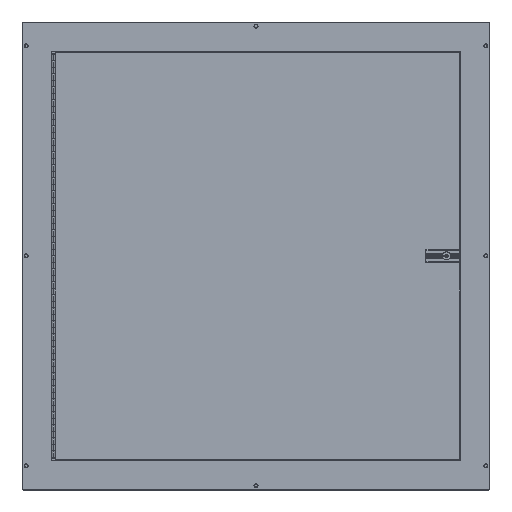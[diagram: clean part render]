
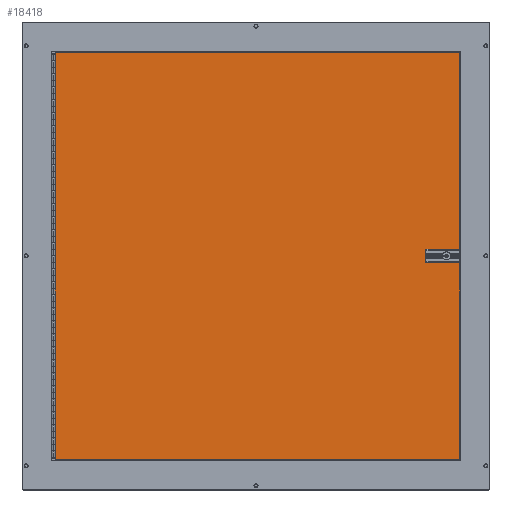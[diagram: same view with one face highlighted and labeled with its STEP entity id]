
A CAD part, top view. The second image highlights one B-rep face of the part: STEP entity #18418.
In plain terms, the highlighted planar face has unit normal (0, 0, 1).
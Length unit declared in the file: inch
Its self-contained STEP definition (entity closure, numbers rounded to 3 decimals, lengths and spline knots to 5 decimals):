
#10957 = CARTESIAN_POINT ( 'NONE',  ( 13.43, 0.51, 0.097 ) ) ;
#11002 = CARTESIAN_POINT ( 'NONE',  ( -15.565, -15.65, 0.097 ) ) ;
#11003 = CARTESIAN_POINT ( 'NONE',  ( -15.565, 15.65, 0.097 ) ) ;
#11004 = DIRECTION ( 'NONE',  ( 0., -1., 0. ) ) ;
#11005 = VECTOR ( 'NONE', #11004, 39.37008 ) ;
#11006 = CARTESIAN_POINT ( 'NONE',  ( -15.565, -15.65, 0.097 ) ) ;
#11007 = LINE ( 'NONE', #11006, #11005 ) ;
#11008 = DIRECTION ( 'NONE',  ( -1., 0., 0. ) ) ;
#11010 = DIRECTION ( 'NONE',  ( 0., 0., -1. ) ) ;
#11011 = CARTESIAN_POINT ( 'NONE',  ( -15.565, 15.65, 0.097 ) ) ;
#11012 = AXIS2_PLACEMENT_3D ( 'NONE', #11011, #11010, #11008 ) ;
#11013 = PLANE ( 'NONE',  #11012 ) ;
#11018 = FACE_BOUND ( 'NONE', #18483, .T. ) ;
#11019 = FACE_OUTER_BOUND ( 'NONE', #18419, .T. ) ;
#11022 = CARTESIAN_POINT ( 'NONE',  ( 13.43, -0.51, 0.097 ) ) ;
#11063 = DIRECTION ( 'NONE',  ( 1., 0., 0. ) ) ;
#11064 = VECTOR ( 'NONE', #11063, 39.37008 ) ;
#11065 = CARTESIAN_POINT ( 'NONE',  ( 13.43, -0.51, 0.097 ) ) ;
#11066 = LINE ( 'NONE', #11065, #11064 ) ;
#11067 = CARTESIAN_POINT ( 'NONE',  ( 15.15, -0.51, 0.097 ) ) ;
#11068 = DIRECTION ( 'NONE',  ( 0., 1., 0. ) ) ;
#11069 = VECTOR ( 'NONE', #11068, 39.37008 ) ;
#11070 = CARTESIAN_POINT ( 'NONE',  ( 15.15, -0.51, 0.097 ) ) ;
#11071 = LINE ( 'NONE', #11070, #11069 ) ;
#11072 = CARTESIAN_POINT ( 'NONE',  ( 15.15, 0.51, 0.097 ) ) ;
#11073 = DIRECTION ( 'NONE',  ( -1., 0., 0. ) ) ;
#11074 = VECTOR ( 'NONE', #11073, 39.37008 ) ;
#11075 = CARTESIAN_POINT ( 'NONE',  ( 13.43, 0.51, 0.097 ) ) ;
#11076 = LINE ( 'NONE', #11075, #11074 ) ;
#11088 = DIRECTION ( 'NONE',  ( 0., -1., 0. ) ) ;
#11089 = VECTOR ( 'NONE', #11088, 39.37008 ) ;
#11090 = CARTESIAN_POINT ( 'NONE',  ( 13.43, -0.51, 0.097 ) ) ;
#11091 = LINE ( 'NONE', #11090, #11089 ) ;
#11092 = DIRECTION ( 'NONE',  ( -1., 0., 0. ) ) ;
#11093 = VECTOR ( 'NONE', #11092, 39.37008 ) ;
#11094 = CARTESIAN_POINT ( 'NONE',  ( -15.565, 15.65, 0.097 ) ) ;
#11095 = LINE ( 'NONE', #11094, #11093 ) ;
#11096 = CARTESIAN_POINT ( 'NONE',  ( 15.565, 15.65, 0.097 ) ) ;
#11097 = DIRECTION ( 'NONE',  ( 0., 1., 0. ) ) ;
#11098 = VECTOR ( 'NONE', #11097, 39.37008 ) ;
#11099 = CARTESIAN_POINT ( 'NONE',  ( 15.565, -15.65, 0.097 ) ) ;
#11100 = LINE ( 'NONE', #11099, #11098 ) ;
#11101 = CARTESIAN_POINT ( 'NONE',  ( 15.565, -15.65, 0.097 ) ) ;
#11102 = DIRECTION ( 'NONE',  ( 1., 0., 0. ) ) ;
#11103 = VECTOR ( 'NONE', #11102, 39.37008 ) ;
#11104 = CARTESIAN_POINT ( 'NONE',  ( -15.565, -15.65, 0.097 ) ) ;
#11105 = LINE ( 'NONE', #11104, #11103 ) ;
#18406 = VERTEX_POINT ( 'NONE', #10957 ) ;
#18407 = VERTEX_POINT ( 'NONE', #11022 ) ;
#18408 = ORIENTED_EDGE ( 'NONE', *, *, #18459, .F. ) ;
#18418 = ADVANCED_FACE ( 'NONE', ( #11019, #11018 ), #11013, .F. ) ;
#18419 = EDGE_LOOP ( 'NONE', ( #18420, #18475, #18478, #18481 ) ) ;
#18420 = ORIENTED_EDGE ( 'NONE', *, *, #18421, .T. ) ;
#18421 = EDGE_CURVE ( 'NONE', #18422, #18423, #11007, .T. ) ;
#18422 = VERTEX_POINT ( 'NONE', #11003 ) ;
#18423 = VERTEX_POINT ( 'NONE', #11002 ) ;
#18459 = EDGE_CURVE ( 'NONE', #18460, #18406, #11076, .T. ) ;
#18460 = VERTEX_POINT ( 'NONE', #11072 ) ;
#18462 = ORIENTED_EDGE ( 'NONE', *, *, #18463, .F. ) ;
#18463 = EDGE_CURVE ( 'NONE', #18464, #18460, #11071, .T. ) ;
#18464 = VERTEX_POINT ( 'NONE', #11067 ) ;
#18465 = ORIENTED_EDGE ( 'NONE', *, *, #18466, .F. ) ;
#18466 = EDGE_CURVE ( 'NONE', #18407, #18464, #11066, .T. ) ;
#18475 = ORIENTED_EDGE ( 'NONE', *, *, #18476, .T. ) ;
#18476 = EDGE_CURVE ( 'NONE', #18423, #18477, #11105, .T. ) ;
#18477 = VERTEX_POINT ( 'NONE', #11101 ) ;
#18478 = ORIENTED_EDGE ( 'NONE', *, *, #18479, .T. ) ;
#18479 = EDGE_CURVE ( 'NONE', #18477, #18480, #11100, .T. ) ;
#18480 = VERTEX_POINT ( 'NONE', #11096 ) ;
#18481 = ORIENTED_EDGE ( 'NONE', *, *, #18482, .T. ) ;
#18482 = EDGE_CURVE ( 'NONE', #18480, #18422, #11095, .T. ) ;
#18483 = EDGE_LOOP ( 'NONE', ( #18484, #18408, #18462, #18465 ) ) ;
#18484 = ORIENTED_EDGE ( 'NONE', *, *, #18485, .F. ) ;
#18485 = EDGE_CURVE ( 'NONE', #18406, #18407, #11091, .T. ) ;
